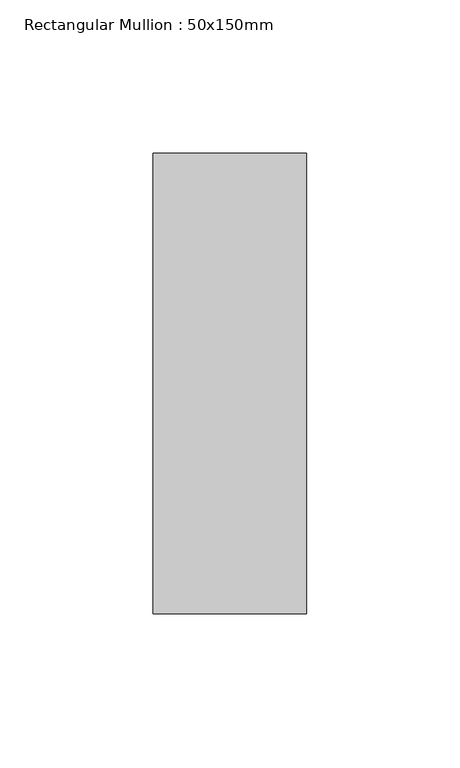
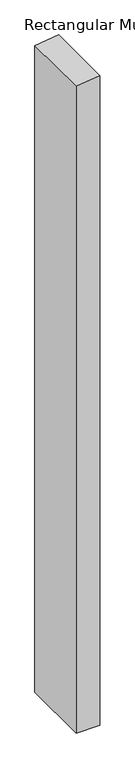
"""IFC4 building model written with IfcOpenShell, lengths in millimetres: member geometry, Rectangular Mullion : 50x150mm."""

from ifc_helpers import new_model, si_unit, frame, origin, place, context, project, spatial, polyline, outline, extrude, source, transform, mapped, element, save


def rectangular_mullion_50x150mm_d798f442(model_context):
    return source(origin(), model_context, "Body", "SweptSolid", [
        extrude(outline(polyline([(0.0, 0.0), (-6.139228, -50.0), (-1446.1159713, -50.0), (-1446.1159713, 0.0), (0.0, 0.0)])), frame((0.0, -75.0, 0.0), z_axis=(0.0, 1.0, 0.0), x_axis=(0.0, 0.0, 1.0)), (0.0, 0.0, 1.0), 150.0),
    ])


if __name__ == "__main__":
    model = new_model("IFC4")
    model_context = context("Model", 3, world=origin())
    ifc_project = project(units=[si_unit("LENGTHUNIT", "METRE", prefix="MILLI")], contexts=[model_context])
    site = spatial("IfcSite", under=ifc_project)
    building = spatial("IfcBuilding", under=site)
    placement = place(None, origin())
    rectangular_mullion_50x150mm_shape = rectangular_mullion_50x150mm_d798f442(model_context)
    element("IfcMember", 1, ObjectType="Rectangular Mullion : 50x150mm", at=placement, inside=building, context=model_context, shape_type="MappedRepresentation", body=[
        mapped(rectangular_mullion_50x150mm_shape, transform((0.0, 0.0, 0.0), x_axis=(1.0, 0.0, 0.0), y_axis=(0.0, 1.0, 0.0), z_axis=(0.0, 0.0, 1.0))),
    ])
    save(model, "model.ifc")
